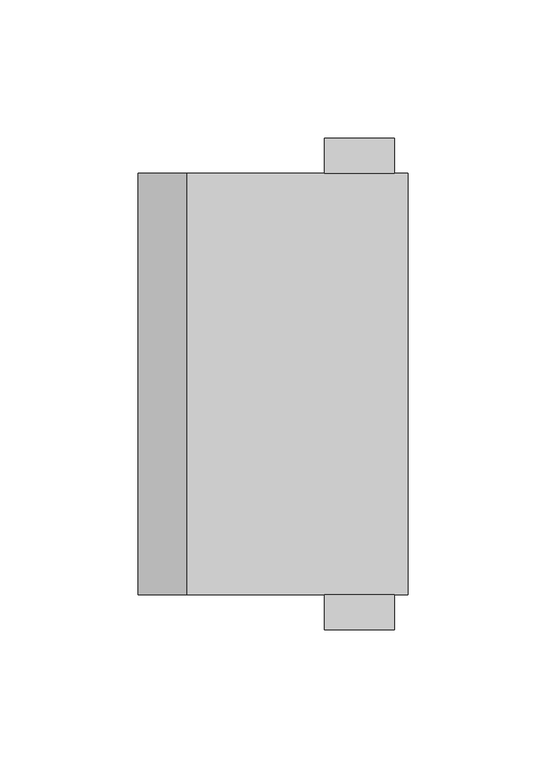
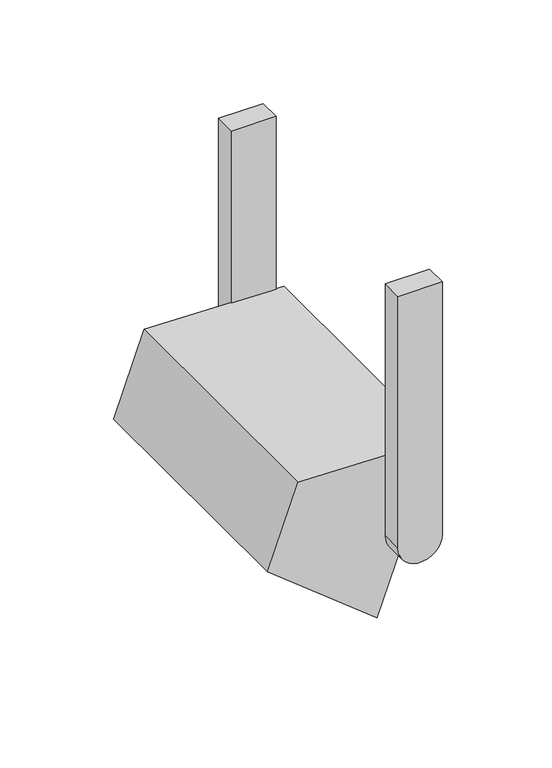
"""IFC4 building model written with IfcOpenShell, lengths in millimetres: light fixture geometry, M_嵌燈 - 聚光燈 : 160度-瓦數100."""

from ifc_helpers import new_model, si_unit, point, frame, frame_2d, origin, place, context, project, spatial, polyline, circle_curve, trimmed, segment, composite_curve, outline, extrude, source, transform, mapped, element, save


def light_fixture_da8946fe(model_context):
    return source(origin(), model_context, "Body", "SweptSolid", [
        extrude(outline(composite_curve([segment(trimmed(circle_curve(frame_2d((2286.0, 0.0)), 12.7), [point((2286.0, -12.7))], [point((2286.0, 12.7))], False, "CARTESIAN"), True, "CONTINUOUS"), segment(polyline([(2286.0, 12.7), (2438.4, 12.7), (2438.4, -12.7), (2286.0, -12.7)]), True, "CONTINUOUS")], self_intersect=False)), frame((0.0, 76.2, 0.0), z_axis=(0.0, 1.0, 0.0), x_axis=(0.0, 0.0, 1.0)), (0.0, 0.0, 1.0), 12.7),
        extrude(outline(composite_curve([segment(trimmed(circle_curve(frame_2d((2286.0, 0.0)), 12.7), [point((2286.0, -12.7))], [point((2286.0, 12.7))], False, "CARTESIAN"), True, "CONTINUOUS"), segment(polyline([(2286.0, 12.7), (2438.4, 12.7), (2438.4, -12.7), (2286.0, -12.7)]), True, "CONTINUOUS")], self_intersect=False)), frame((0.0, -88.9, 0.0), z_axis=(0.0, 1.0, 0.0), x_axis=(0.0, 0.0, 1.0)), (0.0, 0.0, 1.0), 12.7),
        extrude(outline(polyline([(2336.1123082, -62.6244663), (2287.8747536, -80.1815003), (2238.0756763, -17.4293714), (2286.0, 0.0136559), (2333.9243237, 17.4566832), (2336.1123082, -62.6244663)])), frame((0.0, -76.2, 0.0), z_axis=(0.0, 1.0, 0.0), x_axis=(0.0, 0.0, 1.0)), (0.0, 0.0, 1.0), 152.4),
    ])


if __name__ == "__main__":
    model = new_model("IFC4")
    model_context = context("Model", 3, world=origin())
    ifc_project = project(units=[si_unit("LENGTHUNIT", "METRE", prefix="MILLI")], contexts=[model_context])
    site = spatial("IfcSite", under=ifc_project)
    building = spatial("IfcBuilding", under=site)
    placement = place(None, origin())
    light_fixture_shape = light_fixture_da8946fe(model_context)
    element("IfcLightFixture", 1, ObjectType="M_嵌燈 - 聚光燈 : 160度-瓦數100", at=placement, inside=building, context=model_context, shape_type="MappedRepresentation", body=[
        mapped(light_fixture_shape, transform((0.0, 0.0, 0.0), x_axis=(1.0, 0.0, 0.0), y_axis=(0.0, 1.0, 0.0), z_axis=(0.0, 0.0, 1.0))),
    ])
    save(model, "model.ifc")
